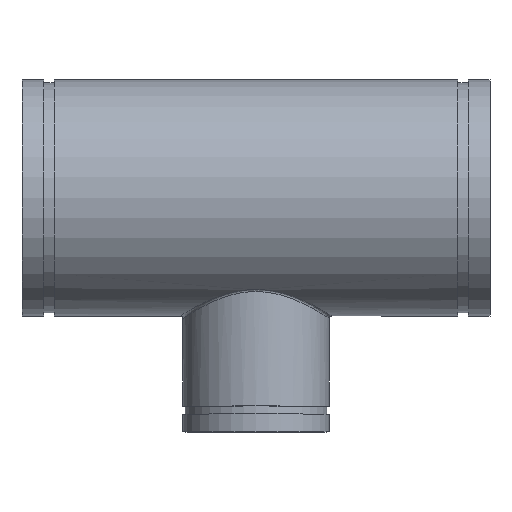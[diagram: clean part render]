
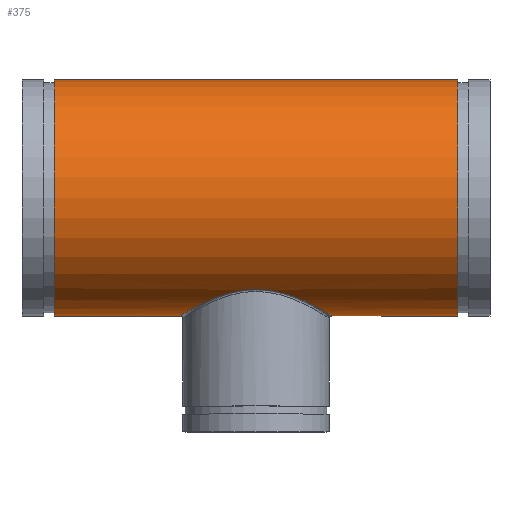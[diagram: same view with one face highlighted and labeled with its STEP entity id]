
A CAD part, top view. The second image highlights one B-rep face of the part: STEP entity #375.
In plain terms, the highlighted cylindrical face has radius 140.97 mm (diameter 281.94 mm), a full revolution.
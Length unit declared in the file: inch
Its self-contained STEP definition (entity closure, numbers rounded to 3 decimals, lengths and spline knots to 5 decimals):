
#54=FACE_BOUND('',#119,.T.);
#65=LINE('',#833,#76);
#76=VECTOR('',#483,5.55);
#87=CYLINDRICAL_SURFACE('',#415,5.55);
#98=FACE_OUTER_BOUND('',#118,.T.);
#118=EDGE_LOOP('',(#266,#267,#268,#269));
#119=EDGE_LOOP('',(#270));
#150=B_SPLINE_CURVE_WITH_KNOTS('',3,(#799,#800,#801,#802,#803,#804,#805,
#806,#807,#808,#809,#810,#811,#812,#813,#814,#815,#816,#817,#818,#819,#820,
#821,#822,#823,#824,#825,#826,#827,#828),.UNSPECIFIED.,.T.,.F.,(4,1,1,1,
1,1,1,1,1,1,1,1,1,1,1,1,1,1,1,1,1,1,1,1,1,1,1,4),(-54.64278,-52.69125,
-50.73972,-48.7882,-46.83667,-44.23463,
-41.63259,-40.98208,-40.33158,-39.03056,
-36.42852,-33.82648,-31.22445,-28.62241,
-27.32139,-26.02037,-23.41833,-20.8163,
-18.21426,-15.61222,-13.01019,-12.35968,
-10.40815,-7.80611,-5.85458,-3.90306,
-1.95153,0.),.UNSPECIFIED.);
#154=CIRCLE('',#416,5.55);
#155=CIRCLE('',#417,5.55);
#182=VERTEX_POINT('',#761);
#185=VERTEX_POINT('',#830);
#186=VERTEX_POINT('',#832);
#219=EDGE_CURVE('',#182,#182,#150,.T.);
#220=EDGE_CURVE('',#185,#185,#154,.T.);
#221=EDGE_CURVE('',#185,#186,#65,.T.);
#222=EDGE_CURVE('',#186,#186,#155,.T.);
#266=ORIENTED_EDGE('',*,*,#220,.T.);
#267=ORIENTED_EDGE('',*,*,#221,.T.);
#268=ORIENTED_EDGE('',*,*,#222,.T.);
#269=ORIENTED_EDGE('',*,*,#221,.F.);
#270=ORIENTED_EDGE('',*,*,#219,.F.);
#375=ADVANCED_FACE('',(#98,#54),#87,.T.);
#415=AXIS2_PLACEMENT_3D('',#829,#479,#480);
#416=AXIS2_PLACEMENT_3D('',#831,#481,#482);
#417=AXIS2_PLACEMENT_3D('',#834,#484,#485);
#479=DIRECTION('center_axis',(-1.,0.,0.));
#480=DIRECTION('ref_axis',(0.,-1.,0.));
#481=DIRECTION('center_axis',(1.,0.,0.));
#482=DIRECTION('ref_axis',(0.,-1.,0.));
#483=DIRECTION('',(1.,0.,0.));
#484=DIRECTION('center_axis',(-1.,0.,0.));
#485=DIRECTION('ref_axis',(0.,-1.,0.));
#761=CARTESIAN_POINT('',(0.,-4.3103,-3.49626));
#799=CARTESIAN_POINT('Ctrl Pts',(0.,-4.3103,
-3.49626));
#800=CARTESIAN_POINT('Ctrl Pts',(0.27563,-4.3103,-3.49626));
#801=CARTESIAN_POINT('Ctrl Pts',(0.82638,-4.36272,-3.43293));
#802=CARTESIAN_POINT('Ctrl Pts',(1.58572,-4.56528,-3.16529));
#803=CARTESIAN_POINT('Ctrl Pts',(2.24935,-4.82956,-2.75289));
#804=CARTESIAN_POINT('Ctrl Pts',(2.8657,-5.13388,-2.15362));
#805=CARTESIAN_POINT('Ctrl Pts',(3.36518,-5.42036,-1.3296));
#806=CARTESIAN_POINT('Ctrl Pts',(3.55767,-5.53944,-0.5394));
#807=CARTESIAN_POINT('Ctrl Pts',(3.57847,-5.55213,0.00004));
#808=CARTESIAN_POINT('Ctrl Pts',(3.5644,-5.54343,0.35928));
#809=CARTESIAN_POINT('Ctrl Pts',(3.46559,-5.48293,0.98086));
#810=CARTESIAN_POINT('Ctrl Pts',(3.12428,-5.27766,1.80285));
#811=CARTESIAN_POINT('Ctrl Pts',(2.46124,-4.9231,2.60236));
#812=CARTESIAN_POINT('Ctrl Pts',(1.59883,-4.55717,3.18398));
#813=CARTESIAN_POINT('Ctrl Pts',(0.73551,-4.34423,3.45447));
#814=CARTESIAN_POINT('Ctrl Pts',(0.,-4.29903,
3.51018));
#815=CARTESIAN_POINT('Ctrl Pts',(-0.73541,-4.34422,3.45448));
#816=CARTESIAN_POINT('Ctrl Pts',(-1.59874,-4.55715,3.184));
#817=CARTESIAN_POINT('Ctrl Pts',(-2.46133,-4.92308,2.6024));
#818=CARTESIAN_POINT('Ctrl Pts',(-3.12412,-5.27758,1.80291));
#819=CARTESIAN_POINT('Ctrl Pts',(-3.53423,-5.5243,0.81648));
#820=CARTESIAN_POINT('Ctrl Pts',(-3.59994,-5.5654,-0.00226));
#821=CARTESIAN_POINT('Ctrl Pts',(-3.51495,-5.51306,-0.71507));
#822=CARTESIAN_POINT('Ctrl Pts',(-3.31972,-5.39426,-1.40446));
#823=CARTESIAN_POINT('Ctrl Pts',(-2.86578,-5.13394,-2.1536));
#824=CARTESIAN_POINT('Ctrl Pts',(-2.24933,-4.82954,-2.75289));
#825=CARTESIAN_POINT('Ctrl Pts',(-1.5857,-4.56528,-3.1653));
#826=CARTESIAN_POINT('Ctrl Pts',(-0.82638,-4.36271,-3.43293));
#827=CARTESIAN_POINT('Ctrl Pts',(-0.27563,-4.3103,-3.49626));
#828=CARTESIAN_POINT('Ctrl Pts',(0.,-4.3103,
-3.49626));
#829=CARTESIAN_POINT('Origin',(11.,0.,0.));
#830=CARTESIAN_POINT('',(-9.485,5.55,0.));
#831=CARTESIAN_POINT('Origin',(-9.485,0.,0.));
#832=CARTESIAN_POINT('',(9.485,5.55,0.));
#833=CARTESIAN_POINT('',(11.,5.55,0.));
#834=CARTESIAN_POINT('Origin',(9.485,0.,0.));
